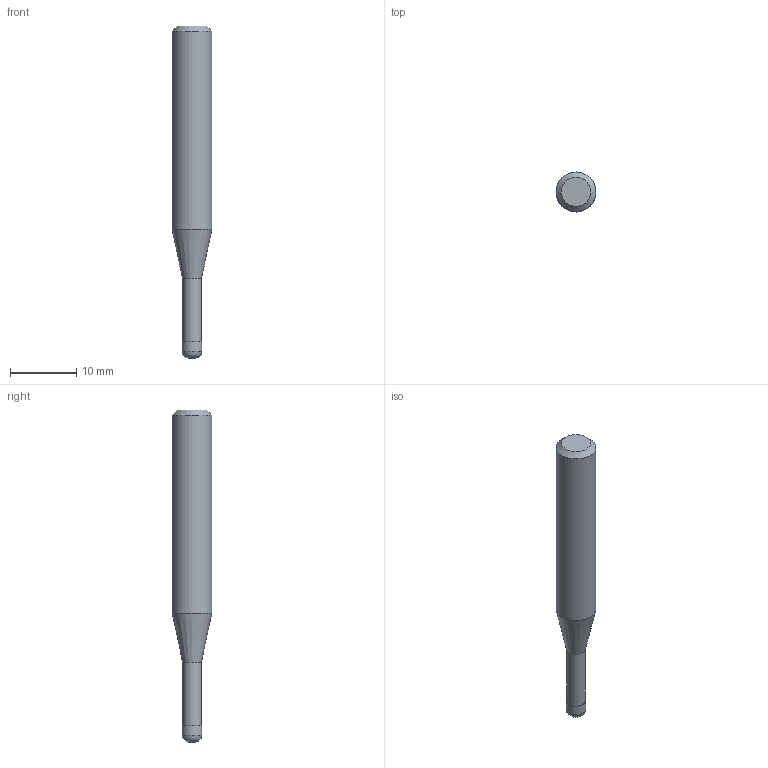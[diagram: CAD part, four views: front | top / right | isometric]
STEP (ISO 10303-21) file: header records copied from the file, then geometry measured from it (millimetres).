
FILE_DESCRIPTION((''),'2;1');
FILE_NAME('C:\Users\nsx150\AppData\Local\Temp\Mastercam 2021\3SYKECWX22\TEMP.step','2021-04-22T09:51:06',(''),(''),'STEP Write','Mastercam 2021 ... CNC Software, Inc.','');
FILE_SCHEMA(('AUTOMOTIVE_DESIGN'));
Length unit declared in the file: millimetre
Products named in the file (1): None
Bounding box: 6 x 6 x 50 mm (x, y, z)
Volume: 1054.7 mm3; surface area: 825.2 mm2
Topology: 2 solids, 2 shells, 10 faces, 14 edges, 8 vertices
Faces by surface type: plane 4, cylinder 3, cone 2, torus 1
Full cylindrical faces by diameter (mm): 2.85 x1, 3 x1, 6 x1
Entity records: 232 total; most frequent: DIRECTION 40, CARTESIAN_POINT 28, AXIS2_PLACEMENT_3D 20, ORIENTED_EDGE 16, EDGE_LOOP 16, STYLED_ITEM 13, ADVANCED_FACE 10, FACE_BOUND 10
